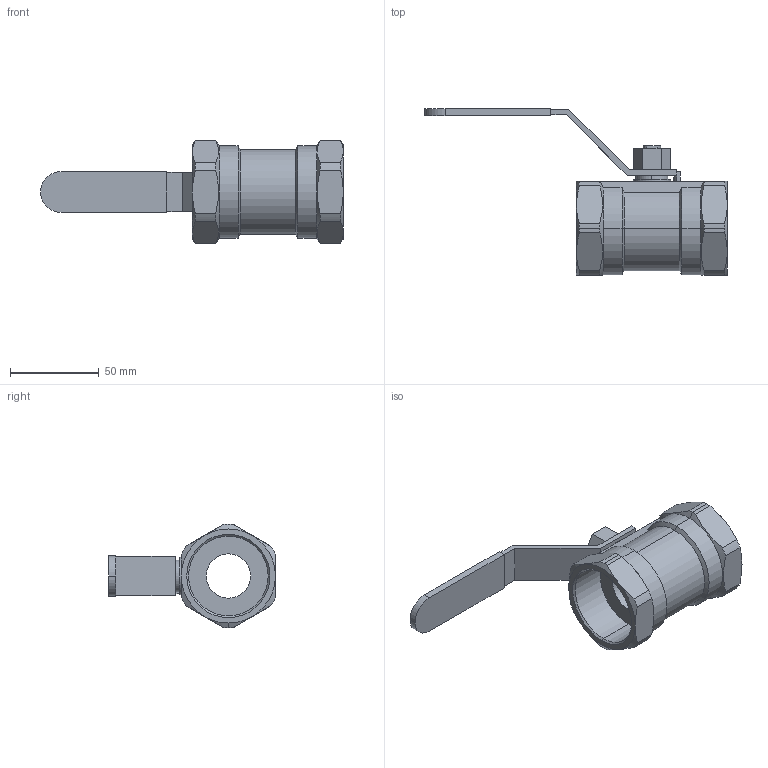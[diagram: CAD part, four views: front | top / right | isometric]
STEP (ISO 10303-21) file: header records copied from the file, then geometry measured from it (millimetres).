
FILE_DESCRIPTION (( 'STEP AP203' ), '1' );
FILE_NAME ('A3.622I040XFVPB0.STEP', '2018-11-06T10:21:53', ( '' ), ( '' ), 'SwSTEP 2.0', 'SolidWorks 2014', '' );
FILE_SCHEMA (( 'CONFIG_CONTROL_DESIGN' ));
Length unit declared in the file: millimetre
Products named in the file (1): A3.622I040XFVPB0
Bounding box: 170.5 x 94 x 58.5 mm (x, y, z)
Volume: 109787.1 mm3; surface area: 36321.5 mm2
Topology: 1 solids, 1 shells, 117 faces, 287 edges, 181 vertices
Faces by surface type: plane 47, cylinder 40, cone 30
Entity records: 3725 total; most frequent: CARTESIAN_POINT 888, DIRECTION 578, ORIENTED_EDGE 574, EDGE_CURVE 287, AXIS2_PLACEMENT_3D 219, VERTEX_POINT 181, VECTOR 140, LINE 140
